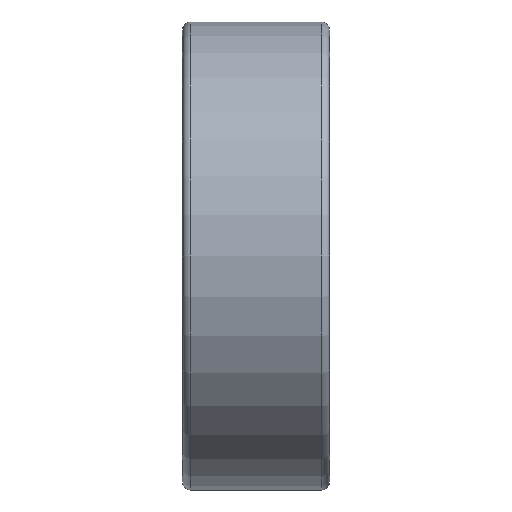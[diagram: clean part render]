
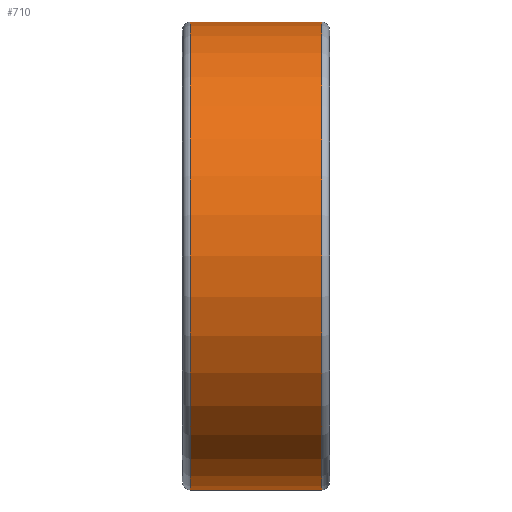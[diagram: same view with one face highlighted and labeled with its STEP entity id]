
A CAD part, front view. The second image highlights one B-rep face of the part: STEP entity #710.
In plain terms, the highlighted cylindrical face has radius 17.5 mm (diameter 35 mm), a full revolution.
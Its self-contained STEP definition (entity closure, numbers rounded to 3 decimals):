
#42=LINE('',#1365,#48);
#48=VECTOR('',#1116,17.5);
#54=CYLINDRICAL_SURFACE('',#863,17.5);
#124=FACE_OUTER_BOUND('',#182,.T.);
#182=EDGE_LOOP('',(#634,#635,#636,#637,#638,#639));
#270=CIRCLE('',#858,17.5);
#271=CIRCLE('',#859,17.5);
#274=CIRCLE('',#864,17.5);
#275=CIRCLE('',#865,17.5);
#374=VERTEX_POINT('',#1353);
#375=VERTEX_POINT('',#1354);
#377=VERTEX_POINT('',#1362);
#378=VERTEX_POINT('',#1363);
#463=EDGE_CURVE('',#374,#375,#270,.T.);
#464=EDGE_CURVE('',#375,#374,#271,.T.);
#467=EDGE_CURVE('',#377,#378,#274,.T.);
#468=EDGE_CURVE('',#377,#375,#42,.T.);
#469=EDGE_CURVE('',#378,#377,#275,.T.);
#634=ORIENTED_EDGE('',*,*,#467,.F.);
#635=ORIENTED_EDGE('',*,*,#468,.T.);
#636=ORIENTED_EDGE('',*,*,#463,.F.);
#637=ORIENTED_EDGE('',*,*,#464,.F.);
#638=ORIENTED_EDGE('',*,*,#468,.F.);
#639=ORIENTED_EDGE('',*,*,#469,.F.);
#710=ADVANCED_FACE('',(#124),#54,.T.);
#858=AXIS2_PLACEMENT_3D('',#1355,#1102,#1103);
#859=AXIS2_PLACEMENT_3D('',#1356,#1104,#1105);
#863=AXIS2_PLACEMENT_3D('',#1361,#1112,#1113);
#864=AXIS2_PLACEMENT_3D('',#1364,#1114,#1115);
#865=AXIS2_PLACEMENT_3D('',#1366,#1117,#1118);
#1102=DIRECTION('center_axis',(-1.,0.,0.));
#1103=DIRECTION('ref_axis',(0.,-1.,0.));
#1104=DIRECTION('center_axis',(-1.,0.,0.));
#1105=DIRECTION('ref_axis',(0.,-1.,0.));
#1112=DIRECTION('center_axis',(1.,0.,0.));
#1113=DIRECTION('ref_axis',(0.,1.,0.));
#1114=DIRECTION('center_axis',(1.,0.,0.));
#1115=DIRECTION('ref_axis',(0.,-1.,0.));
#1116=DIRECTION('',(-1.,0.,0.));
#1117=DIRECTION('center_axis',(1.,0.,0.));
#1118=DIRECTION('ref_axis',(0.,-1.,0.));
#1353=CARTESIAN_POINT('',(0.6,0.,17.5));
#1354=CARTESIAN_POINT('',(0.6,-17.5,0.));
#1355=CARTESIAN_POINT('Origin',(0.6,0.,0.));
#1356=CARTESIAN_POINT('Origin',(0.6,0.,0.));
#1361=CARTESIAN_POINT('Origin',(5.5,0.,0.));
#1362=CARTESIAN_POINT('',(10.4,-17.5,0.));
#1363=CARTESIAN_POINT('',(10.4,0.,17.5));
#1364=CARTESIAN_POINT('Origin',(10.4,0.,0.));
#1365=CARTESIAN_POINT('',(5.5,-17.5,0.));
#1366=CARTESIAN_POINT('Origin',(10.4,0.,0.));
